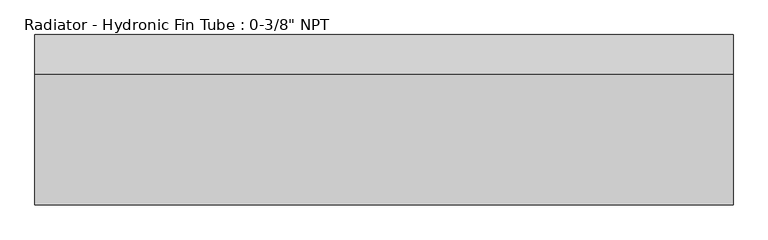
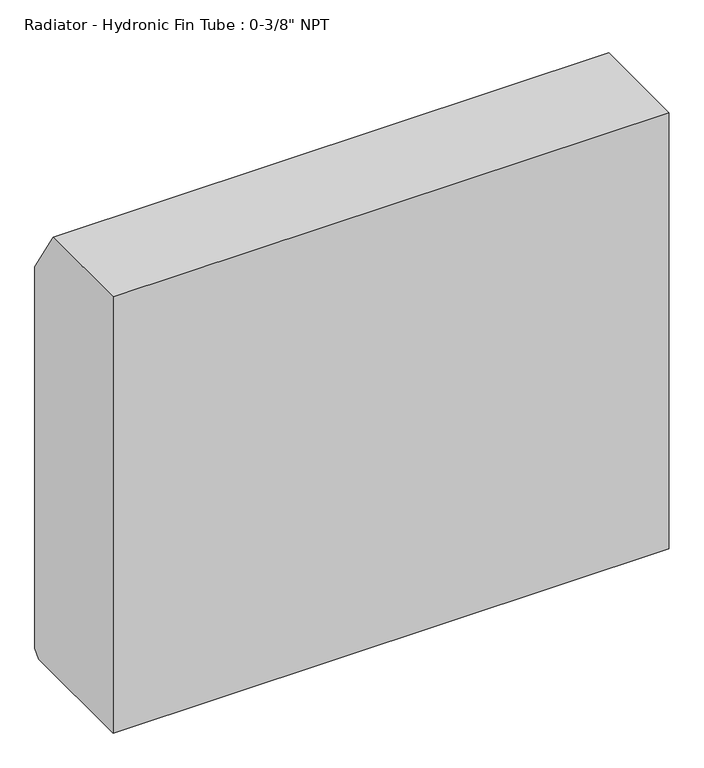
"""IFC4 building model written with IfcOpenShell, lengths in millimetres: proxy geometry."""

from ifc_helpers import new_model, si_unit, frame, origin, place, context, project, spatial, polyline, outline, extrude, source, transform, mapped, element, save


def proxy_798cdd37(model_context):
    return source(origin(), model_context, "Body", "SweptSolid", [
        extrude(outline(polyline([(419.1, 304.8), (177.8, 304.8), (177.8, 1168.4), (373.0625, 1168.4), (431.8, 1074.0279261), (431.8, 318.3779261), (419.1, 304.8)])), frame((-914.4, 0.0, 0.0), z_axis=(1.0, 0.0, 0.0), x_axis=(0.0, 1.0, 0.0)), (0.0, 0.0, 1.0), 1041.4),
    ])


if __name__ == "__main__":
    model = new_model("IFC4")
    model_context = context("Model", 3, world=origin())
    ifc_project = project(units=[si_unit("LENGTHUNIT", "METRE", prefix="MILLI")], contexts=[model_context])
    site = spatial("IfcSite", under=ifc_project)
    building = spatial("IfcBuilding", under=site)
    placement = place(None, origin())
    proxy_shape = proxy_798cdd37(model_context)
    element("IfcBuildingElementProxy", 1, Name="Radiator - Hydronic Fin Tube : 0-3/8\" NPT", ObjectType="Radiator - Hydronic Fin Tube : 0-3/8\" NPT", at=placement, inside=building, context=model_context, shape_type="MappedRepresentation", body=[
        mapped(proxy_shape, transform((0.0, 0.0, 0.0), x_axis=(1.0, 0.0, 0.0), y_axis=(0.0, 1.0, 0.0), z_axis=(0.0, 0.0, 1.0))),
    ])
    save(model, "model.ifc")
